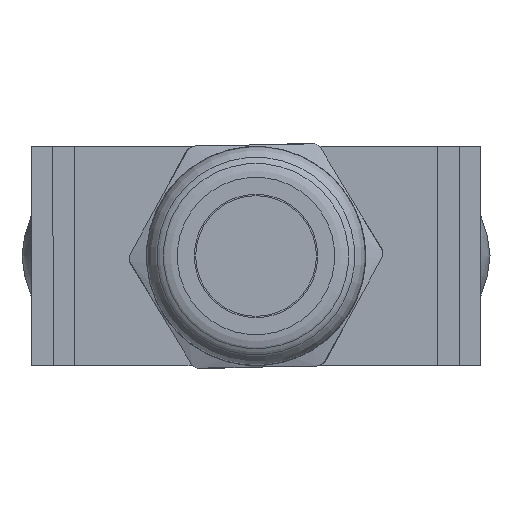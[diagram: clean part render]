
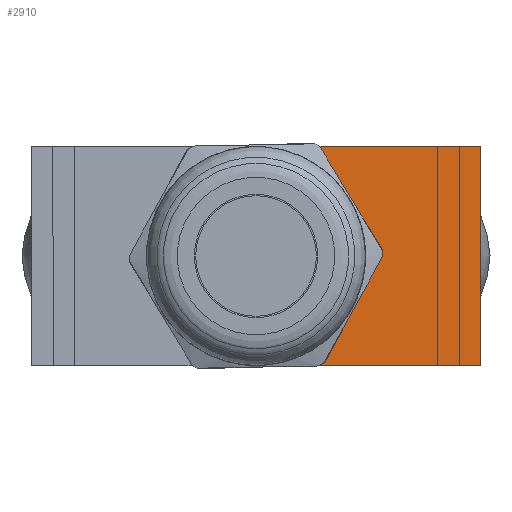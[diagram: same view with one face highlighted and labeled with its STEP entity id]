
A CAD part, front view. The second image highlights one B-rep face of the part: STEP entity #2910.
In plain terms, the highlighted planar face has unit normal (0, -1, 0).
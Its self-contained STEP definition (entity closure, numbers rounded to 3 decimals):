
#2910=ADVANCED_FACE('', (#2920), #2930, .T.);
#15540=AXIS2_PLACEMENT_3D('Ax2Pl3d', #15550, #15560, #15570);
#15580=AXIS2_PLACEMENT_3D('Ax2Pl3d', #15590, #15600, #15610);
#15620=AXIS2_PLACEMENT_3D('Ax2Pl3d', #15630, #15640, #15650);
#56210=CARTESIAN_POINT('', (414.457,-1173.027,384.986))
;
#56220=CARTESIAN_POINT('', (398.693,-1173.027,384.984))
;
#56230=CARTESIAN_POINT('', (398.693,-1173.027,384.984))
;
#57910=CARTESIAN_POINT('', (399.696,-1173.027,404.984));
#57920=CARTESIAN_POINT('', (414.456,-1173.027,404.986))
;
#57930=CARTESIAN_POINT('', (414.456,-1173.027,404.986))
;
#58820=CARTESIAN_POINT('', (405.472,-1173.027,395.581))
;
#58830=CARTESIAN_POINT('', (399.696,-1173.027,404.984));
#15550=CARTESIAN_POINT('HicPkt', (414.457,-1173.027,
384.986));
#58850=CARTESIAN_POINT('', (399.749,-1173.027,385.013))
;
#58860=CARTESIAN_POINT('', (399.749,-1173.027,385.013))
;
#58870=CARTESIAN_POINT('', (414.457,-1173.027,384.986))
;
#15590=CARTESIAN_POINT('HicPkt', (393.956,-1173.027,
394.984));
#58880=CARTESIAN_POINT('', (405.488,-1173.027,395.015));
#58890=CARTESIAN_POINT('', (405.488,-1173.027,395.015));
#58900=CARTESIAN_POINT('', (400.232,-1173.027,385.31))
;
#15630=CARTESIAN_POINT('HicPkt', (393.956,-1173.027,
394.984));
#62270=CIRCLE('Circle', #15580, 11.531);
#62280=CIRCLE('Circle', #15620, 11.531);
#79410=DIRECTION('', (-1.,0.,
0.));
#80260=DIRECTION('', (1.,0.,
0.));
#80690=DIRECTION('', (-0.523,0.,
0.852));
#15560=DIRECTION('Axis', (0.,-1.,
0.));
#15570=DIRECTION('RefDirection', (0.,
0.,-1.));
#80710=DIRECTION('', (1.,0.,
0.027));
#80720=DIRECTION('', (0.,0.,
-1.));
#15600=DIRECTION('Axis', (0.,-1.,
0.));
#15610=DIRECTION('RefDirection', (0.,
0.,-1.));
#80730=DIRECTION('', (0.476,0.,
0.879));
#15640=DIRECTION('Axis', (0.,-1.,
0.));
#15650=DIRECTION('RefDirection', (0.,
0.,-1.));
#84890=EDGE_CURVE('', #84870, #84900, #84910, .T.);
#87560=EDGE_CURVE('', #87540, #87570, #87580, .T.);
#89070=EDGE_CURVE('', #89050, #87540, #89080, .T.);
#89110=EDGE_CURVE('', #84900, #89120, #89130, .T.);
#89140=EDGE_CURVE('', #87570, #84870, #89150, .T.);
#89160=EDGE_CURVE('', #89170, #89050, #62270, .T.);
#89180=EDGE_CURVE('', #89190, #89170, #89200, .T.);
#89210=EDGE_CURVE('', #89120, #89190, #62280, .T.);
#99300=EDGE_LOOP('Edge_loop', (#99310,#99320,#99330,#99340,#99350,
#99360,#99370,#99380));
#2920=FACE_OUTER_BOUND('Face_outer_bound', #99300, .T.);
#84910=LINE('Line', #56220, #108780);
#87580=LINE('Line', #57920, #109630);
#89080=LINE('Line', #58830, #110060);
#89130=LINE('Line', #58850, #110080);
#89150=LINE('Line', #58870, #110090);
#89200=LINE('Line', #58890, #110100);
#99310=ORIENTED_EDGE('', *, *, #89110, .F.);
#99320=ORIENTED_EDGE('', *, *, #84890, .F.);
#99330=ORIENTED_EDGE('', *, *, #89140, .F.);
#99340=ORIENTED_EDGE('', *, *, #87560, .F.);
#99350=ORIENTED_EDGE('', *, *, #89070, .F.);
#99360=ORIENTED_EDGE('', *, *, #89160, .F.);
#99370=ORIENTED_EDGE('', *, *, #89180, .F.);
#99380=ORIENTED_EDGE('', *, *, #89210, .F.);
#2930=PLANE('Plane', #15540);
#108780=VECTOR('', #79410, 15.764);
#109630=VECTOR('', #80260, 14.76);
#110060=VECTOR('', #80690, 11.035);
#110080=VECTOR('', #80710, 1.056);
#110090=VECTOR('', #80720, 20.);
#110100=VECTOR('', #80730, 11.037);
#84870=VERTEX_POINT('', #56210);
#84900=VERTEX_POINT('', #56230);
#87540=VERTEX_POINT('', #57910);
#87570=VERTEX_POINT('', #57930);
#89050=VERTEX_POINT('', #58820);
#89120=VERTEX_POINT('', #58860);
#89170=VERTEX_POINT('', #58880);
#89190=VERTEX_POINT('', #58900);
